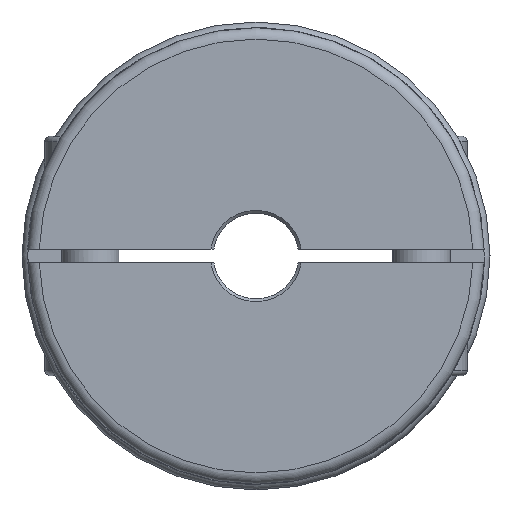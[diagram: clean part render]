
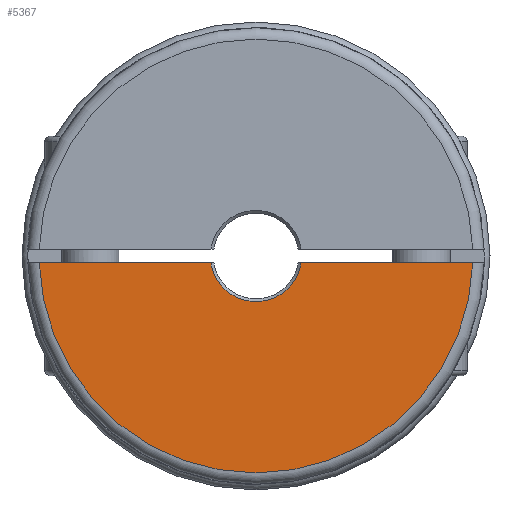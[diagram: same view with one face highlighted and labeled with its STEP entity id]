
A CAD part, left-side view. The second image highlights one B-rep face of the part: STEP entity #5367.
In plain terms, the highlighted planar face has unit normal (-1, 0, 0).
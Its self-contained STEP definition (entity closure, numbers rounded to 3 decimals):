
#190=LINE('',#8245,#334);
#194=LINE('',#8270,#338);
#334=VECTOR('',#6867,1000.);
#338=VECTOR('',#6873,1000.);
#1181=ORIENTED_EDGE('',*,*,#1711,.T.);
#1182=ORIENTED_EDGE('',*,*,#1712,.T.);
#1183=ORIENTED_EDGE('',*,*,#1704,.F.);
#1184=ORIENTED_EDGE('',*,*,#1713,.F.);
#1704=EDGE_CURVE('',#2066,#2067,#190,.T.);
#1711=EDGE_CURVE('',#2073,#2074,#194,.T.);
#1712=EDGE_CURVE('',#2074,#2067,#2322,.T.);
#1713=EDGE_CURVE('',#2073,#2066,#2323,.T.);
#2066=VERTEX_POINT('',#8246);
#2067=VERTEX_POINT('',#8247);
#2073=VERTEX_POINT('',#8271);
#2074=VERTEX_POINT('',#8272);
#2322=CIRCLE('',#5831,8.);
#2323=CIRCLE('',#5832,38.);
#2724=EDGE_LOOP('',(#1181,#1182,#1183,#1184));
#3152=FACE_BOUND('',#2724,.T.);
#3323=PLANE('',#5830);
#5367=ADVANCED_FACE('',(#3152),#3323,.F.);
#5830=AXIS2_PLACEMENT_3D('',#8269,#6871,#6872);
#5831=AXIS2_PLACEMENT_3D('',#8273,#6874,#6875);
#5832=AXIS2_PLACEMENT_3D('',#8274,#6876,#6877);
#6867=DIRECTION('',(0.,-1.,0.));
#6871=DIRECTION('',(1.,0.,0.));
#6872=DIRECTION('',(0.,1.,0.));
#6873=DIRECTION('',(0.,1.,0.));
#6874=DIRECTION('',(1.,0.,0.));
#6875=DIRECTION('',(0.,1.,0.));
#6876=DIRECTION('',(1.,0.,0.));
#6877=DIRECTION('',(0.,1.,0.));
#8245=CARTESIAN_POINT('',(-38.577,-40.,-1.2));
#8246=CARTESIAN_POINT('',(-38.577,37.981,-1.2));
#8247=CARTESIAN_POINT('',(-38.577,7.909,-1.2));
#8269=CARTESIAN_POINT('',(-38.577,-40.,0.));
#8270=CARTESIAN_POINT('',(-38.577,-40.,-1.2));
#8271=CARTESIAN_POINT('',(-38.577,-37.981,-1.2));
#8272=CARTESIAN_POINT('',(-38.577,-7.909,-1.2));
#8273=CARTESIAN_POINT('',(-38.577,0.,0.));
#8274=CARTESIAN_POINT('',(-38.577,0.,0.));
